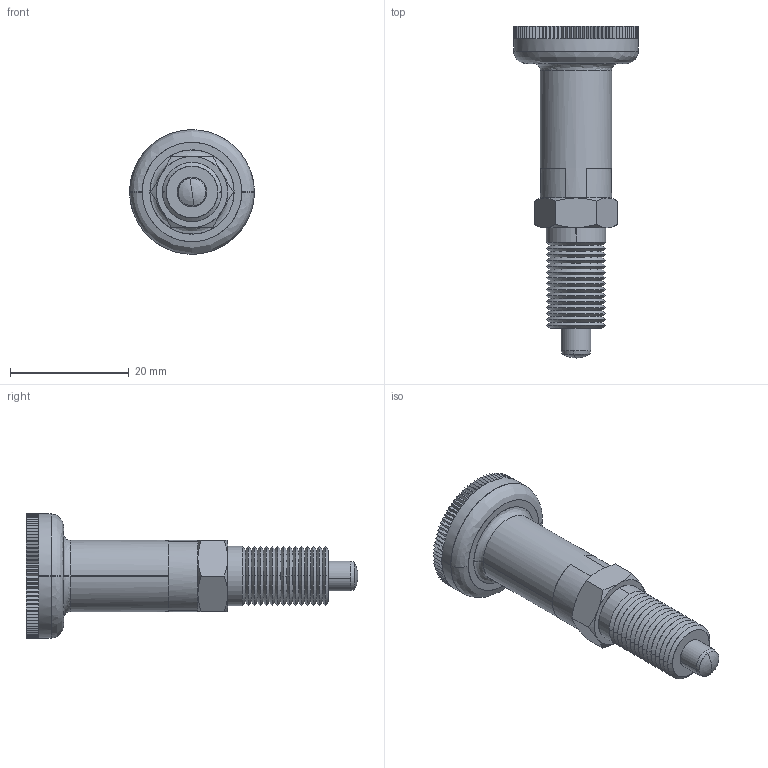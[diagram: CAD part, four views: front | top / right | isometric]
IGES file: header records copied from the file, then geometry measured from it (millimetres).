
Start section: SolidWorks IGES file using analytic representation for surfaces
Global section: file name: C:\Documents and Settings\IANO\My Documents\Wix and Auto CAD Work\CAD Models\Parametric Models\Wix Models\30000\32712_v2\32712_v2_20160414_IGES\32712.W0705.igs; native system: SolidWorks 2009; preprocessor: SolidWorks 2009; author: IANO; date: 160630.184916; units: millimetre
Bounding box: 21 x 56 x 21 mm (x, y, z)
Surface area: 4501.2 mm2 (no closed solid volume)
Topology: 0 solids, 0 shells, 415 faces, 2638 edges, 2636 vertices
Faces by surface type: bspline 315, revolution 100
